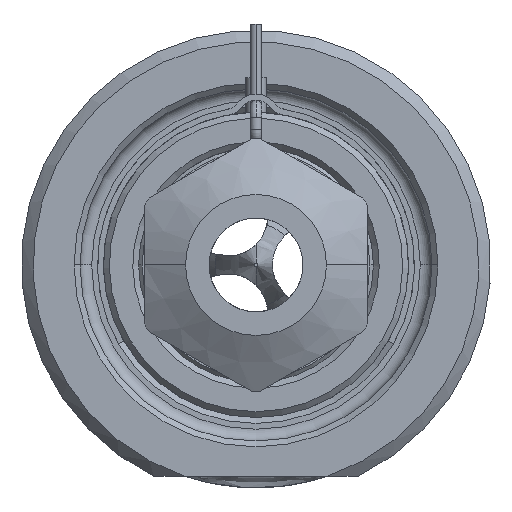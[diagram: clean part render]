
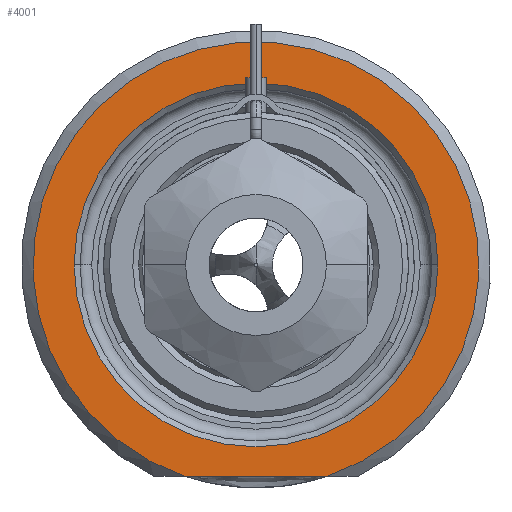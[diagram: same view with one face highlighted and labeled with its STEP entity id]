
A CAD part, front view. The second image highlights one B-rep face of the part: STEP entity #4001.
In plain terms, the highlighted planar face has unit normal (0, -1, 0).
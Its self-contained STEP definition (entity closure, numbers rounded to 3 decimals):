
#1=DIRECTION('',(1.,0.,0.));
#2=VECTOR('',#1,12.166);
#3=CARTESIAN_POINT('',(-6.083,0.,-18.));
#4=LINE('',#3,#2);
#5=CARTESIAN_POINT('',(0.,0.,0.));
#6=DIRECTION('',(0.,1.,0.));
#7=DIRECTION('',(-1.,0.,0.));
#8=AXIS2_PLACEMENT_3D('',#5,#6,#7);
#10=CARTESIAN_POINT('',(0.,0.,0.));
#11=DIRECTION('',(0.,1.,0.));
#12=DIRECTION('',(1.,0.,0.));
#13=AXIS2_PLACEMENT_3D('',#10,#11,#12);
#264=CARTESIAN_POINT('',(0.,0.,0.));
#265=DIRECTION('',(0.,-1.,0.));
#266=DIRECTION('',(0.32,0.,-0.947));
#267=AXIS2_PLACEMENT_3D('',#264,#265,#266);
#3367=CARTESIAN_POINT('',(-15.5,0.,0.));
#3368=CARTESIAN_POINT('',(15.5,0.,0.));
#3369=VERTEX_POINT('',#3367);
#3370=VERTEX_POINT('',#3368);
#3425=CARTESIAN_POINT('',(-6.083,0.,-18.));
#3426=CARTESIAN_POINT('',(6.083,0.,-18.));
#3427=VERTEX_POINT('',#3425);
#3428=VERTEX_POINT('',#3426);
#3984=CARTESIAN_POINT('',(0.,0.,0.));
#3985=DIRECTION('',(0.,-1.,0.));
#3986=DIRECTION('',(1.,0.,0.));
#3987=AXIS2_PLACEMENT_3D('',#3984,#3985,#3986);
#3988=PLANE('',#3987);
#3990=ORIENTED_EDGE('',*,*,#3989,.F.);
#3992=ORIENTED_EDGE('',*,*,#3991,.F.);
#3993=EDGE_LOOP('',(#3990,#3992));
#3994=FACE_OUTER_BOUND('',#3993,.F.);
#3996=ORIENTED_EDGE('',*,*,#3995,.F.);
#3998=ORIENTED_EDGE('',*,*,#3997,.F.);
#3999=EDGE_LOOP('',(#3996,#3998));
#4000=FACE_BOUND('',#3999,.F.);
#4001=ADVANCED_FACE('',(#3994,#4000),#3988,.T.);
#9=CIRCLE('',#8,15.5);
#14=CIRCLE('',#13,15.5);
#268=CIRCLE('',#267,19.);
#3989=EDGE_CURVE('',#3427,#3428,#4,.T.);
#3991=EDGE_CURVE('',#3428,#3427,#268,.T.);
#3995=EDGE_CURVE('',#3369,#3370,#9,.T.);
#3997=EDGE_CURVE('',#3370,#3369,#14,.T.);
